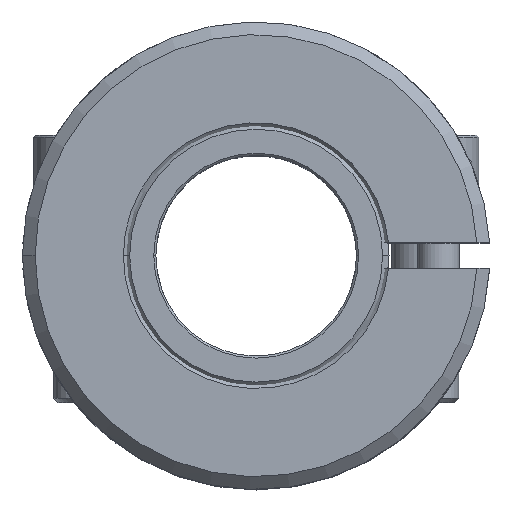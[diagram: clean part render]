
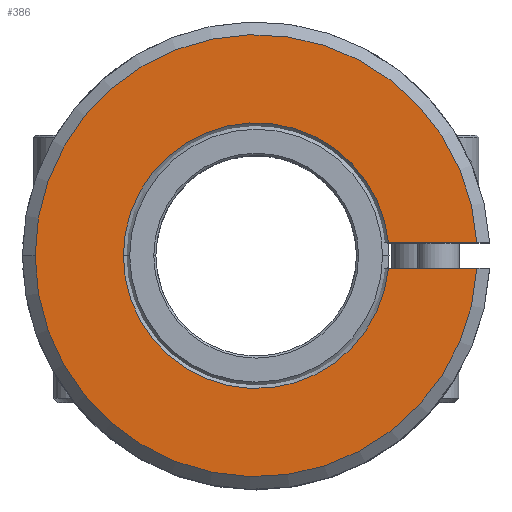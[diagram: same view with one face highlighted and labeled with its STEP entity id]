
A CAD part, top view. The second image highlights one B-rep face of the part: STEP entity #386.
In plain terms, the highlighted planar face has unit normal (0, 0, 1).
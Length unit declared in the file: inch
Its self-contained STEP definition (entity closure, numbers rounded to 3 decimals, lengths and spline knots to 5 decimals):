
#386 = ADVANCED_FACE( '', ( #651 ), #652, .T. );
#651 = FACE_OUTER_BOUND( '', #921, .T. );
#652 = PLANE( '', #922 );
#921 = EDGE_LOOP( '', ( #1859, #1860, #1861, #1862, #1863, #1864 ) );
#922 = AXIS2_PLACEMENT_3D( '', #1865, #1866, #1867 );
#1859 = ORIENTED_EDGE( '', *, *, #2162, .F. );
#1860 = ORIENTED_EDGE( '', *, *, #2190, .T. );
#1861 = ORIENTED_EDGE( '', *, *, #2195, .F. );
#1862 = ORIENTED_EDGE( '', *, *, #2151, .F. );
#1863 = ORIENTED_EDGE( '', *, *, #2191, .T. );
#1864 = ORIENTED_EDGE( '', *, *, #2182, .F. );
#1865 = CARTESIAN_POINT( '', ( 0., 0., 0.75 ) );
#1866 = DIRECTION( '', ( 0., 0., 1. ) );
#1867 = DIRECTION( '', ( 1., 0., 0. ) );
#2151 = EDGE_CURVE( '', #2613, #2609, #2615, .T. );
#2162 = EDGE_CURVE( '', #2633, #2629, #2635, .T. );
#2182 = EDGE_CURVE( '', #2629, #2666, #2667, .T. );
#2190 = EDGE_CURVE( '', #2633, #2676, #2678, .T. );
#2191 = EDGE_CURVE( '', #2613, #2666, #2679, .T. );
#2195 = EDGE_CURVE( '', #2609, #2676, #2685, .T. );
#2609 = VERTEX_POINT( '', #3490 );
#2613 = VERTEX_POINT( '', #3495 );
#2615 = CIRCLE( '', #3498, 0.52 );
#2629 = VERTEX_POINT( '', #3525 );
#2633 = VERTEX_POINT( '', #3530 );
#2635 = CIRCLE( '', #3542, 0.3125 );
#2666 = VERTEX_POINT( '', #3620 );
#2667 = CIRCLE( '', #3621, 0.3125 );
#2676 = VERTEX_POINT( '', #3652 );
#2678 = LINE( '', #3655, #3656 );
#2679 = LINE( '', #3657, #3658 );
#2685 = CIRCLE( '', #3667, 0.52 );
#3490 = CARTESIAN_POINT( '', ( -0.52, 0., 0.75 ) );
#3495 = CARTESIAN_POINT( '', ( 0.51913, -0.03, 0.75 ) );
#3498 = AXIS2_PLACEMENT_3D( '', #4091, #4092, #4093 );
#3525 = CARTESIAN_POINT( '', ( -0.3125, 0., 0.75 ) );
#3530 = CARTESIAN_POINT( '', ( 0.31106, 0.03, 0.75 ) );
#3542 = AXIS2_PLACEMENT_3D( '', #4110, #4111, #4112 );
#3620 = CARTESIAN_POINT( '', ( 0.31106, -0.03, 0.75 ) );
#3621 = AXIS2_PLACEMENT_3D( '', #4146, #4147, #4148 );
#3652 = CARTESIAN_POINT( '', ( 0.51913, 0.03, 0.75 ) );
#3655 = CARTESIAN_POINT( '', ( 1.00313, 0.03, 0.75 ) );
#3656 = VECTOR( '', #4158, 1. );
#3657 = CARTESIAN_POINT( '', ( 0., -0.03, 0.75 ) );
#3658 = VECTOR( '', #4159, 1. );
#3667 = AXIS2_PLACEMENT_3D( '', #4163, #4164, #4165 );
#4091 = CARTESIAN_POINT( '', ( 0., 0., 0.75 ) );
#4092 = DIRECTION( '', ( 0., 0., -1. ) );
#4093 = DIRECTION( '', ( -1., 0., 0. ) );
#4110 = CARTESIAN_POINT( '', ( 0., 0., 0.75 ) );
#4111 = DIRECTION( '', ( 0., 0., 1. ) );
#4112 = DIRECTION( '', ( -1., 0., 0. ) );
#4146 = CARTESIAN_POINT( '', ( 0., 0., 0.75 ) );
#4147 = DIRECTION( '', ( 0., 0., 1. ) );
#4148 = DIRECTION( '', ( -1., 0., 0. ) );
#4158 = DIRECTION( '', ( 1., 0., 0. ) );
#4159 = DIRECTION( '', ( -1., 0., 0. ) );
#4163 = CARTESIAN_POINT( '', ( 0., 0., 0.75 ) );
#4164 = DIRECTION( '', ( 0., 0., -1. ) );
#4165 = DIRECTION( '', ( -1., 0., 0. ) );
